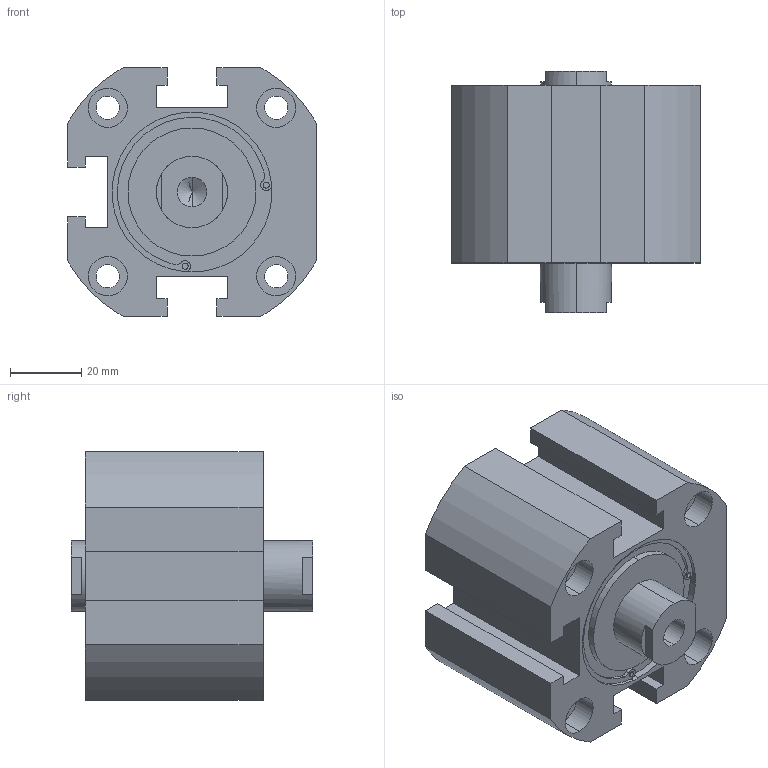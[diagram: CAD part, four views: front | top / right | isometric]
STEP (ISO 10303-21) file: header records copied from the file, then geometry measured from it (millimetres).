
FILE_DESCRIPTION (( 'STEP AP203' ), '1' );
FILE_NAME ('XG#7-50D-10.STEP', '2016-05-24T01:59:56', ( '' ), ( '' ), 'SwSTEP 2.0', 'SolidWorks 2014', '' );
FILE_SCHEMA (( 'CONFIG_CONTROL_DESIGN' ));
Length unit declared in the file: millimetre
Products named in the file (1): XG#7-50D-10
Bounding box: 70 x 68 x 70 mm (x, y, z)
Volume: 186240 mm3; surface area: 33374.2 mm2
Topology: 1 solids, 1 shells, 149 faces, 369 edges, 238 vertices
Faces by surface type: cylinder 77, plane 60, cone 12
Entity records: 4514 total; most frequent: DIRECTION 831, CARTESIAN_POINT 749, ORIENTED_EDGE 722, EDGE_CURVE 361, AXIS2_PLACEMENT_3D 320, VERTEX_POINT 238, VECTOR 191, LINE 191
